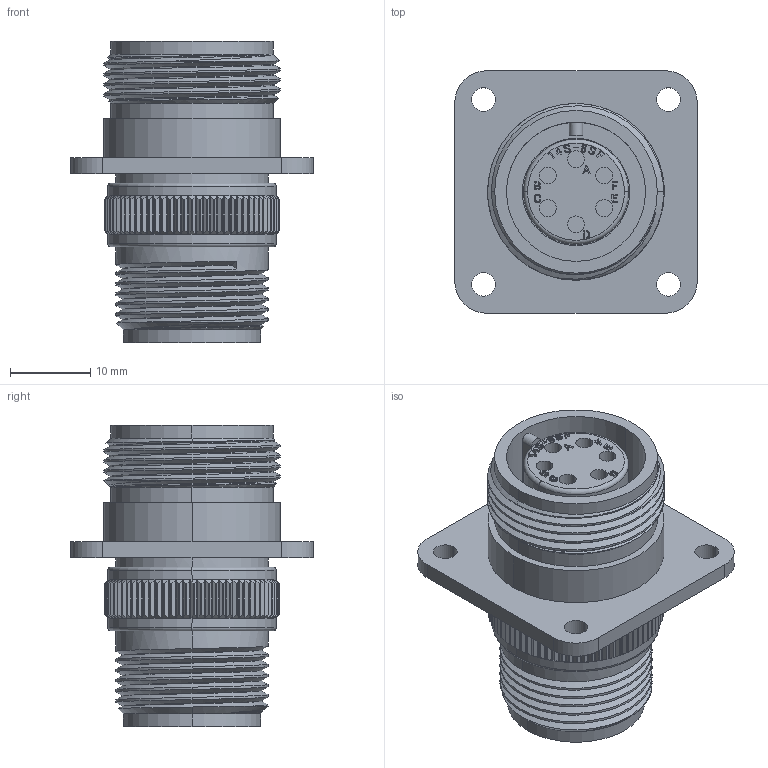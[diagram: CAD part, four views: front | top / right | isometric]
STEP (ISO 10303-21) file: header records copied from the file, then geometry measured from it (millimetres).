
FILE_DESCRIPTION (( 'STEP AP203' ), '1' );
FILE_NAME ('DMS3100A14S-6S.STEP', '2017-07-12T02:21:06', ( '' ), ( '' ), 'SwSTEP 2.0', 'SolidWorks 2015', '' );
FILE_SCHEMA (( 'CONFIG_CONTROL_DESIGN' ));
Length unit declared in the file: millimetre
Products named in the file (1): DMS3100A14S-6S
Bounding box: 30.2 x 30.2 x 37.49 mm (x, y, z)
Volume: 8679.7 mm3; surface area: 8817.1 mm2
Topology: 1 solids, 1 shells, 1382 faces, 3865 edges, 2541 vertices
Faces by surface type: cylinder 536, plane 484, bspline 256, torus 79, cone 27
Entity records: 56749 total; most frequent: CARTESIAN_POINT 24584, ORIENTED_EDGE 7730, DIRECTION 5122, EDGE_CURVE 3865, VERTEX_POINT 2541, AXIS2_PLACEMENT_3D 1713, VECTOR 1696, LINE 1696
